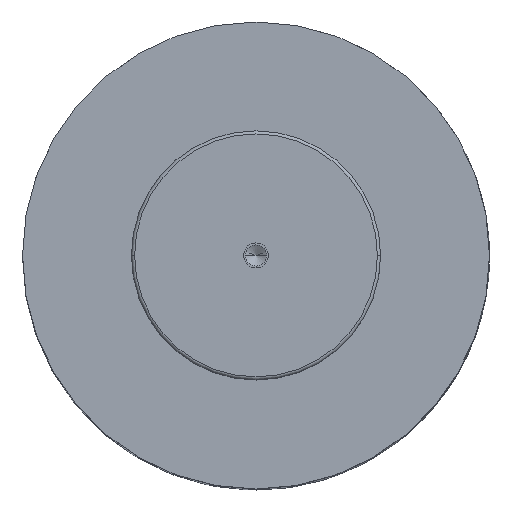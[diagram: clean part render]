
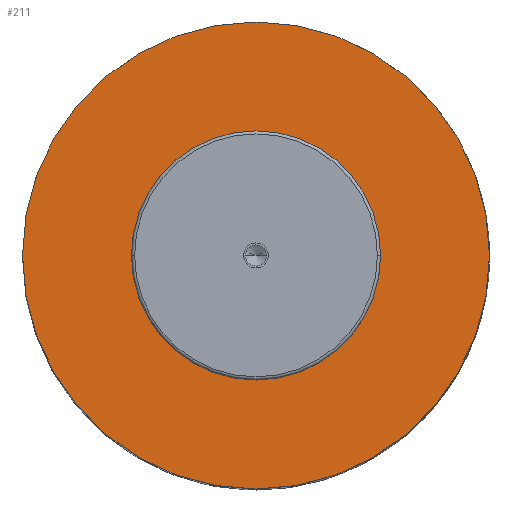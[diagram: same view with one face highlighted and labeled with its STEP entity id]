
A CAD part, top view. The second image highlights one B-rep face of the part: STEP entity #211.
In plain terms, the highlighted planar face has unit normal (0, 0, 1).
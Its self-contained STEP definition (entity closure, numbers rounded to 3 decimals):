
#109=PLANE('',#1266);
#138=FACE_BOUND('',#359,.T.);
#139=FACE_BOUND('',#360,.T.);
#211=ADVANCED_FACE('',(#138,#139),#109,.T.);
#359=EDGE_LOOP('',(#571,#572));
#360=EDGE_LOOP('',(#573,#574));
#451=CIRCLE('',#1260,40.);
#452=CIRCLE('',#1262,40.);
#453=CIRCLE('',#1264,75.);
#454=CIRCLE('',#1265,75.);
#571=ORIENTED_EDGE('',*,*,#970,.F.);
#572=ORIENTED_EDGE('',*,*,#971,.F.);
#573=ORIENTED_EDGE('',*,*,#969,.T.);
#574=ORIENTED_EDGE('',*,*,#967,.T.);
#856=VERTEX_POINT('',#1837);
#857=VERTEX_POINT('',#1839);
#858=VERTEX_POINT('',#1845);
#859=VERTEX_POINT('',#1846);
#967=EDGE_CURVE('',#857,#856,#451,.T.);
#969=EDGE_CURVE('',#856,#857,#452,.T.);
#970=EDGE_CURVE('',#858,#859,#453,.T.);
#971=EDGE_CURVE('',#859,#858,#454,.T.);
#1260=AXIS2_PLACEMENT_3D('',#1838,#1456,#1457);
#1262=AXIS2_PLACEMENT_3D('',#1842,#1461,#1462);
#1264=AXIS2_PLACEMENT_3D('',#1844,#1465,#1466);
#1265=AXIS2_PLACEMENT_3D('',#1847,#1467,#1468);
#1266=AXIS2_PLACEMENT_3D('',#1848,#1469,#1470);
#1456=DIRECTION('',(0.,0.,-1.));
#1457=DIRECTION('',(0.,1.,0.));
#1461=DIRECTION('',(0.,0.,-1.));
#1462=DIRECTION('',(0.,-1.,0.));
#1465=DIRECTION('',(0.,0.,-1.));
#1466=DIRECTION('',(0.,1.,0.));
#1467=DIRECTION('',(0.,0.,-1.));
#1468=DIRECTION('',(0.,-1.,0.));
#1469=DIRECTION('',(0.,0.,1.));
#1470=DIRECTION('',(0.,-1.,0.));
#1837=CARTESIAN_POINT('',(-40.,0.,177.));
#1838=CARTESIAN_POINT('',(0.,0.,177.));
#1839=CARTESIAN_POINT('',(40.,0.,177.));
#1842=CARTESIAN_POINT('',(0.,0.,177.));
#1844=CARTESIAN_POINT('',(0.,0.,177.));
#1845=CARTESIAN_POINT('',(75.,0.,177.));
#1846=CARTESIAN_POINT('',(-75.,0.,177.));
#1847=CARTESIAN_POINT('',(0.,0.,177.));
#1848=CARTESIAN_POINT('',(0.,0.,177.));
